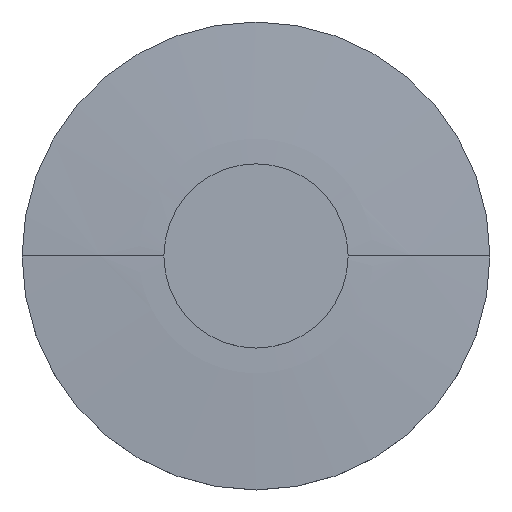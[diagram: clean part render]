
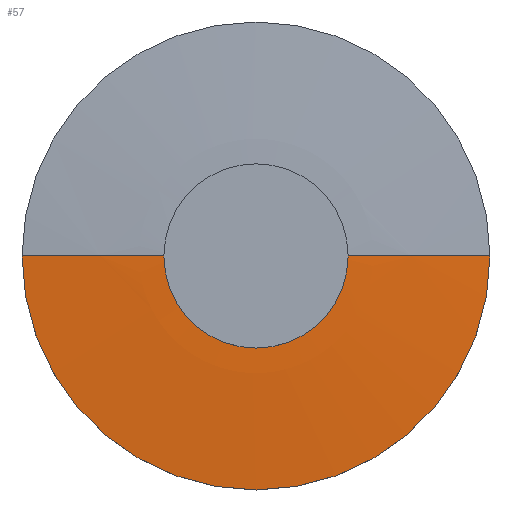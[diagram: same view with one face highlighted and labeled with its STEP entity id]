
A CAD part, top view. The second image highlights one B-rep face of the part: STEP entity #57.
In plain terms, the highlighted spherical face has radius 353.357 mm.
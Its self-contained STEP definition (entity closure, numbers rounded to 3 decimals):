
#57=ADVANCED_FACE('',(#71),#72,.T.);
#71=FACE_OUTER_BOUND('',#91,.T.);
#72=SPHERICAL_SURFACE('',#92,353.357);
#91=EDGE_LOOP('',(#124,#125,#126));
#92=AXIS2_PLACEMENT_3D('',#127,#128,#129);
#124=ORIENTED_EDGE('',*,*,#173,.T.);
#125=ORIENTED_EDGE('',*,*,#174,.T.);
#126=ORIENTED_EDGE('',*,*,#175,.T.);
#127=CARTESIAN_POINT('',(0.0,0.0,-345.357));
#128=DIRECTION('',(0.0,0.0,1.0));
#129=DIRECTION('',(1.0,0.0,0.0));
#173=EDGE_CURVE('',#189,#194,#195,.T.);
#174=EDGE_CURVE('',#194,#191,#196,.T.);
#175=EDGE_CURVE('',#191,#189,#197,.T.);
#189=VERTEX_POINT('',#215);
#191=VERTEX_POINT('',#218);
#194=VERTEX_POINT('',#222);
#195=CIRCLE('',#223,353.357);
#196=CIRCLE('',#224,353.357);
#197=CIRCLE('',#225,25.4);
#215=CARTESIAN_POINT('',(25.4,0.,7.086));
#218=CARTESIAN_POINT('',(-25.4,0.,7.086));
#222=CARTESIAN_POINT('',(0.0,0.0,8.0));
#223=AXIS2_PLACEMENT_3D('',#253,#254,#255);
#224=AXIS2_PLACEMENT_3D('',#256,#257,#258);
#225=AXIS2_PLACEMENT_3D('',#259,#260,#261);
#253=CARTESIAN_POINT('',(0.0,0.0,-345.357));
#254=DIRECTION('',(0.,-1.0,0.0));
#255=DIRECTION('',(0.0,0.0,1.0));
#256=CARTESIAN_POINT('',(0.0,0.0,-345.357));
#257=DIRECTION('',(0.,-1.0,0.0));
#258=DIRECTION('',(0.0,0.0,1.0));
#259=CARTESIAN_POINT('',(0.0,0.0,7.086));
#260=DIRECTION('',(0.0,0.0,1.0));
#261=DIRECTION('',(1.0,0.0,0.0));
